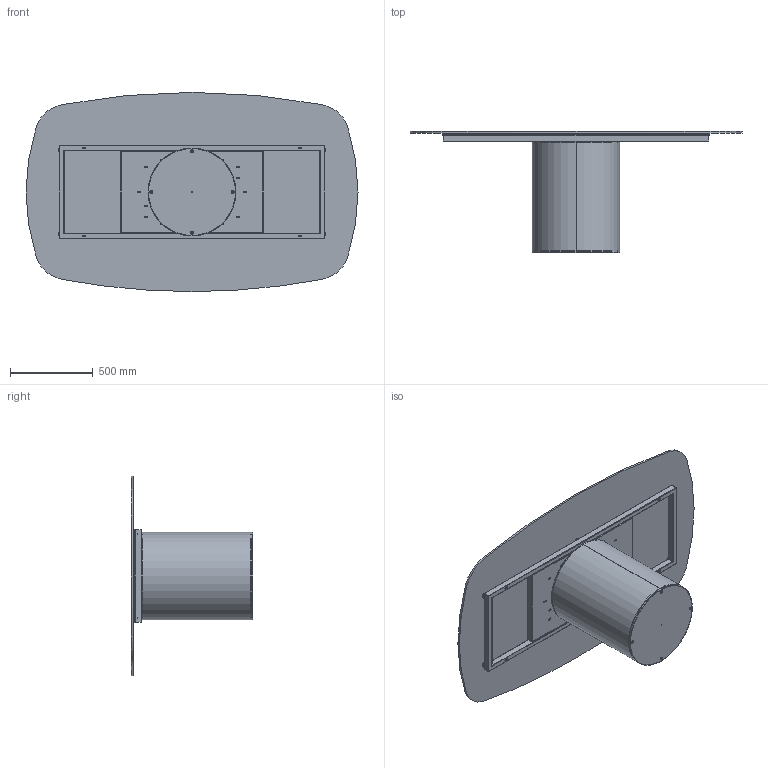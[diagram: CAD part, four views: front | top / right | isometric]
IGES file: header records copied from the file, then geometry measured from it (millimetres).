
Start section: SolidWorks IGES file using analytic representation for surfaces
Global section: file name: Y:\eforma\TECNICO\SOLIDWORKS\E-FORMA\1-TAVOLI\CILINDRO\02 parts\CI41G.IGS; native system: SolidWorks 2022; preprocessor: SolidWorks 2022; author: eforma.tech; date: 240808.092456; units: millimetre
Bounding box: 2000 x 732 x 1200 mm (x, y, z)
Volume: 34704176.9 mm3; surface area: 9515288.5 mm2
Topology: 24 solids, 24 shells, 569 faces, 1333 edges, 788 vertices
Faces by surface type: revolution 317, plane 252
